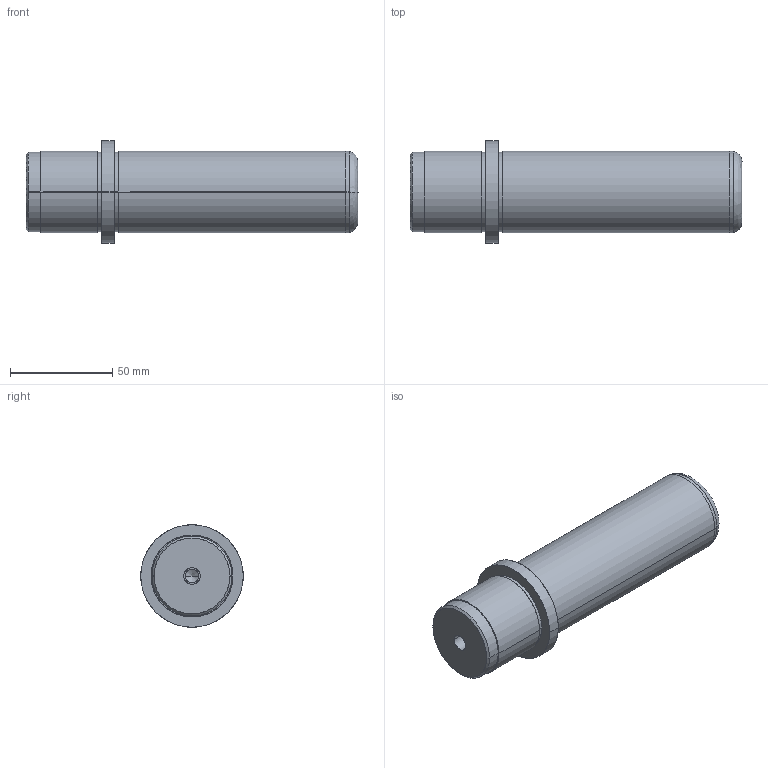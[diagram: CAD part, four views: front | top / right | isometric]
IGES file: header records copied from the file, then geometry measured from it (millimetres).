
Start section: SolidWorks IGES FILE using analytic representation for surfaces
Global section: file name: D:\zzzzz\Delta\D06\40\D06 - 40x125x37.IGS; native system: SolidWorks 2004 by SolidWorks Corporation; preprocessor: Version 5.3; author: Hkn; date: 080327.151106; units: millimetre
Bounding box: 162 x 50 x 50 mm (x, y, z)
Surface area: 25498.3 mm2 (no closed solid volume)
Topology: 0 solids, 0 shells, 39 faces, 1080 edges, 1076 vertices
Faces by surface type: revolution 28, bspline 11
